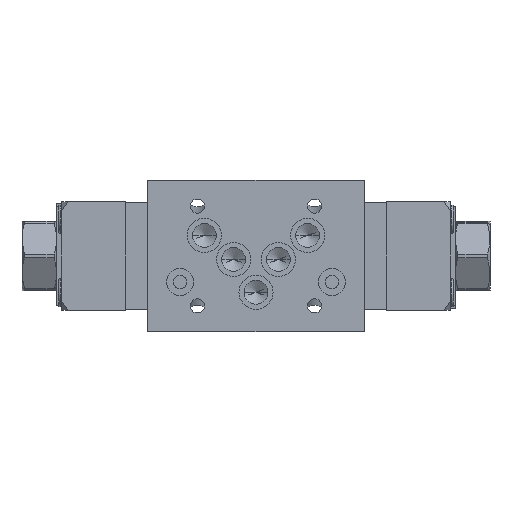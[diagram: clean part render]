
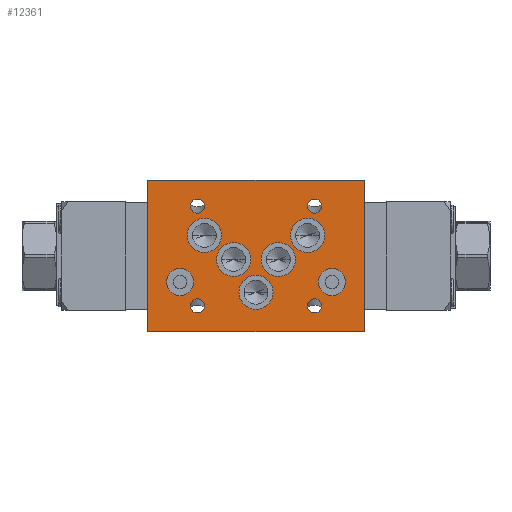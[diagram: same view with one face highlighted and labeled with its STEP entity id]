
A CAD part, front view. The second image highlights one B-rep face of the part: STEP entity #12361.
In plain terms, the highlighted planar face has unit normal (0, -1, 0).
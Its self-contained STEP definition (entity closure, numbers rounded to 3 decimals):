
#678=DIRECTION('',(-1.,0.,0.));
#679=VECTOR('',#678,100.);
#680=CARTESIAN_POINT('',(50.,0.,-35.));
#681=LINE('',#680,#679);
#685=DIRECTION('',(0.,0.,1.));
#686=VECTOR('',#685,70.);
#687=CARTESIAN_POINT('',(-50.,0.,-35.));
#688=LINE('',#687,#686);
#692=CARTESIAN_POINT('',(0.,0.,-16.7));
#693=DIRECTION('',(0.,-1.,0.));
#694=DIRECTION('',(-1.,0.,0.));
#695=AXIS2_PLACEMENT_3D('',#692,#693,#694);
#700=CARTESIAN_POINT('',(0.,0.,-16.7));
#701=DIRECTION('',(0.,-1.,0.));
#702=DIRECTION('',(1.,0.,0.));
#703=AXIS2_PLACEMENT_3D('',#700,#701,#702);
#708=CARTESIAN_POINT('',(10.3,0.,-1.6));
#709=DIRECTION('',(0.,-1.,0.));
#710=DIRECTION('',(-1.,0.,0.));
#711=AXIS2_PLACEMENT_3D('',#708,#709,#710);
#716=CARTESIAN_POINT('',(10.3,0.,-1.6));
#717=DIRECTION('',(0.,-1.,0.));
#718=DIRECTION('',(1.,0.,0.));
#719=AXIS2_PLACEMENT_3D('',#716,#717,#718);
#724=CARTESIAN_POINT('',(-10.3,0.,-1.6));
#725=DIRECTION('',(0.,-1.,0.));
#726=DIRECTION('',(-1.,0.,0.));
#727=AXIS2_PLACEMENT_3D('',#724,#725,#726);
#732=CARTESIAN_POINT('',(-10.3,0.,-1.6));
#733=DIRECTION('',(0.,-1.,0.));
#734=DIRECTION('',(1.,0.,0.));
#735=AXIS2_PLACEMENT_3D('',#732,#733,#734);
#740=CARTESIAN_POINT('',(23.8,0.,9.5));
#741=DIRECTION('',(0.,-1.,0.));
#742=DIRECTION('',(-1.,0.,0.));
#743=AXIS2_PLACEMENT_3D('',#740,#741,#742);
#748=CARTESIAN_POINT('',(23.8,0.,9.5));
#749=DIRECTION('',(0.,-1.,0.));
#750=DIRECTION('',(1.,0.,0.));
#751=AXIS2_PLACEMENT_3D('',#748,#749,#750);
#756=CARTESIAN_POINT('',(-23.8,0.,9.5));
#757=DIRECTION('',(0.,-1.,0.));
#758=DIRECTION('',(-1.,0.,0.));
#759=AXIS2_PLACEMENT_3D('',#756,#757,#758);
#764=CARTESIAN_POINT('',(-23.8,0.,9.5));
#765=DIRECTION('',(0.,-1.,0.));
#766=DIRECTION('',(1.,0.,0.));
#767=AXIS2_PLACEMENT_3D('',#764,#765,#766);
#772=CARTESIAN_POINT('',(35.,0.,-12.));
#773=DIRECTION('',(0.,-1.,0.));
#774=DIRECTION('',(1.,0.,0.));
#775=AXIS2_PLACEMENT_3D('',#772,#773,#774);
#780=CARTESIAN_POINT('',(35.,0.,-12.));
#781=DIRECTION('',(0.,-1.,0.));
#782=DIRECTION('',(-1.,0.,0.));
#783=AXIS2_PLACEMENT_3D('',#780,#781,#782);
#788=CARTESIAN_POINT('',(-35.,0.,-12.));
#789=DIRECTION('',(0.,-1.,0.));
#790=DIRECTION('',(1.,0.,0.));
#791=AXIS2_PLACEMENT_3D('',#788,#789,#790);
#796=CARTESIAN_POINT('',(-35.,0.,-12.));
#797=DIRECTION('',(0.,-1.,0.));
#798=DIRECTION('',(-1.,0.,0.));
#799=AXIS2_PLACEMENT_3D('',#796,#797,#798);
#804=CARTESIAN_POINT('',(-27.,0.,-23.));
#805=DIRECTION('',(0.,-1.,0.));
#806=DIRECTION('',(1.,0.,0.));
#807=AXIS2_PLACEMENT_3D('',#804,#805,#806);
#812=CARTESIAN_POINT('',(-27.,0.,-23.));
#813=DIRECTION('',(0.,-1.,0.));
#814=DIRECTION('',(-1.,0.,0.));
#815=AXIS2_PLACEMENT_3D('',#812,#813,#814);
#820=CARTESIAN_POINT('',(27.,0.,-23.));
#821=DIRECTION('',(0.,-1.,0.));
#822=DIRECTION('',(1.,0.,0.));
#823=AXIS2_PLACEMENT_3D('',#820,#821,#822);
#828=CARTESIAN_POINT('',(27.,0.,-23.));
#829=DIRECTION('',(0.,-1.,0.));
#830=DIRECTION('',(-1.,0.,0.));
#831=AXIS2_PLACEMENT_3D('',#828,#829,#830);
#836=CARTESIAN_POINT('',(27.,0.,23.));
#837=DIRECTION('',(0.,-1.,0.));
#838=DIRECTION('',(1.,0.,0.));
#839=AXIS2_PLACEMENT_3D('',#836,#837,#838);
#844=CARTESIAN_POINT('',(27.,0.,23.));
#845=DIRECTION('',(0.,-1.,0.));
#846=DIRECTION('',(-1.,0.,0.));
#847=AXIS2_PLACEMENT_3D('',#844,#845,#846);
#852=CARTESIAN_POINT('',(-27.,0.,23.));
#853=DIRECTION('',(0.,-1.,0.));
#854=DIRECTION('',(1.,0.,0.));
#855=AXIS2_PLACEMENT_3D('',#852,#853,#854);
#860=CARTESIAN_POINT('',(-27.,0.,23.));
#861=DIRECTION('',(0.,-1.,0.));
#862=DIRECTION('',(-1.,0.,0.));
#863=AXIS2_PLACEMENT_3D('',#860,#861,#862);
#896=DIRECTION('',(0.,0.,1.));
#897=VECTOR('',#896,70.);
#898=CARTESIAN_POINT('',(50.,0.,-35.));
#899=LINE('',#898,#897);
#1169=DIRECTION('',(-1.,0.,0.));
#1170=VECTOR('',#1169,100.);
#1171=CARTESIAN_POINT('',(50.,0.,35.));
#1172=LINE('',#1171,#1170);
#10425=CARTESIAN_POINT('',(-50.,0.,-35.));
#10426=VERTEX_POINT('',#10425);
#10431=CARTESIAN_POINT('',(-50.,0.,35.));
#10432=VERTEX_POINT('',#10431);
#10433=CARTESIAN_POINT('',(50.,0.,-35.));
#10434=VERTEX_POINT('',#10433);
#10459=CARTESIAN_POINT('',(50.,0.,35.));
#10460=VERTEX_POINT('',#10459);
#10461=CARTESIAN_POINT('',(-7.85,0.,-16.7));
#10462=CARTESIAN_POINT('',(7.85,0.,-16.7));
#10463=VERTEX_POINT('',#10461);
#10464=VERTEX_POINT('',#10462);
#10465=CARTESIAN_POINT('',(2.45,0.,-1.6));
#10466=CARTESIAN_POINT('',(18.15,0.,-1.6));
#10467=VERTEX_POINT('',#10465);
#10468=VERTEX_POINT('',#10466);
#10469=CARTESIAN_POINT('',(-18.15,0.,-1.6));
#10470=CARTESIAN_POINT('',(-2.45,0.,-1.6));
#10471=VERTEX_POINT('',#10469);
#10472=VERTEX_POINT('',#10470);
#10473=CARTESIAN_POINT('',(15.95,0.,9.5));
#10474=CARTESIAN_POINT('',(31.65,0.,9.5));
#10475=VERTEX_POINT('',#10473);
#10476=VERTEX_POINT('',#10474);
#10477=CARTESIAN_POINT('',(-31.65,0.,9.5));
#10478=CARTESIAN_POINT('',(-15.95,0.,9.5));
#10479=VERTEX_POINT('',#10477);
#10480=VERTEX_POINT('',#10478);
#10481=CARTESIAN_POINT('',(41.25,0.,-12.));
#10482=CARTESIAN_POINT('',(28.75,0.,-12.));
#10483=VERTEX_POINT('',#10481);
#10484=VERTEX_POINT('',#10482);
#10485=CARTESIAN_POINT('',(-28.75,0.,-12.));
#10486=CARTESIAN_POINT('',(-41.25,0.,-12.));
#10487=VERTEX_POINT('',#10485);
#10488=VERTEX_POINT('',#10486);
#10489=CARTESIAN_POINT('',(-23.75,0.,-23.));
#10490=CARTESIAN_POINT('',(-30.25,0.,-23.));
#10491=VERTEX_POINT('',#10489);
#10492=VERTEX_POINT('',#10490);
#10493=CARTESIAN_POINT('',(30.25,0.,-23.));
#10494=CARTESIAN_POINT('',(23.75,0.,-23.));
#10495=VERTEX_POINT('',#10493);
#10496=VERTEX_POINT('',#10494);
#10497=CARTESIAN_POINT('',(30.25,0.,23.));
#10498=CARTESIAN_POINT('',(23.75,0.,23.));
#10499=VERTEX_POINT('',#10497);
#10500=VERTEX_POINT('',#10498);
#10501=CARTESIAN_POINT('',(-23.75,0.,23.));
#10502=CARTESIAN_POINT('',(-30.25,0.,23.));
#10503=VERTEX_POINT('',#10501);
#10504=VERTEX_POINT('',#10502);
#12282=CARTESIAN_POINT('',(-60.,0.,35.));
#12283=DIRECTION('',(0.,-1.,0.));
#12284=DIRECTION('',(0.,0.,-1.));
#12285=AXIS2_PLACEMENT_3D('',#12282,#12283,#12284);
#12286=PLANE('',#12285);
#12288=ORIENTED_EDGE('',*,*,#12287,.F.);
#12289=ORIENTED_EDGE('',*,*,#12242,.T.);
#12290=ORIENTED_EDGE('',*,*,#12231,.T.);
#12292=ORIENTED_EDGE('',*,*,#12291,.F.);
#12293=EDGE_LOOP('',(#12288,#12289,#12290,#12292));
#12294=FACE_OUTER_BOUND('',#12293,.F.);
#12296=ORIENTED_EDGE('',*,*,#12295,.T.);
#12298=ORIENTED_EDGE('',*,*,#12297,.T.);
#12299=EDGE_LOOP('',(#12296,#12298));
#12300=FACE_BOUND('',#12299,.F.);
#12302=ORIENTED_EDGE('',*,*,#12301,.T.);
#12304=ORIENTED_EDGE('',*,*,#12303,.T.);
#12305=EDGE_LOOP('',(#12302,#12304));
#12306=FACE_BOUND('',#12305,.F.);
#12308=ORIENTED_EDGE('',*,*,#12307,.T.);
#12310=ORIENTED_EDGE('',*,*,#12309,.T.);
#12311=EDGE_LOOP('',(#12308,#12310));
#12312=FACE_BOUND('',#12311,.F.);
#12314=ORIENTED_EDGE('',*,*,#12313,.T.);
#12316=ORIENTED_EDGE('',*,*,#12315,.T.);
#12317=EDGE_LOOP('',(#12314,#12316));
#12318=FACE_BOUND('',#12317,.F.);
#12320=ORIENTED_EDGE('',*,*,#12319,.T.);
#12322=ORIENTED_EDGE('',*,*,#12321,.T.);
#12323=EDGE_LOOP('',(#12320,#12322));
#12324=FACE_BOUND('',#12323,.F.);
#12326=ORIENTED_EDGE('',*,*,#12325,.T.);
#12328=ORIENTED_EDGE('',*,*,#12327,.T.);
#12329=EDGE_LOOP('',(#12326,#12328));
#12330=FACE_BOUND('',#12329,.F.);
#12332=ORIENTED_EDGE('',*,*,#12331,.T.);
#12334=ORIENTED_EDGE('',*,*,#12333,.T.);
#12335=EDGE_LOOP('',(#12332,#12334));
#12336=FACE_BOUND('',#12335,.F.);
#12338=ORIENTED_EDGE('',*,*,#12337,.T.);
#12340=ORIENTED_EDGE('',*,*,#12339,.T.);
#12341=EDGE_LOOP('',(#12338,#12340));
#12342=FACE_BOUND('',#12341,.F.);
#12344=ORIENTED_EDGE('',*,*,#12343,.T.);
#12346=ORIENTED_EDGE('',*,*,#12345,.T.);
#12347=EDGE_LOOP('',(#12344,#12346));
#12348=FACE_BOUND('',#12347,.F.);
#12350=ORIENTED_EDGE('',*,*,#12349,.T.);
#12352=ORIENTED_EDGE('',*,*,#12351,.T.);
#12353=EDGE_LOOP('',(#12350,#12352));
#12354=FACE_BOUND('',#12353,.F.);
#12356=ORIENTED_EDGE('',*,*,#12355,.T.);
#12358=ORIENTED_EDGE('',*,*,#12357,.T.);
#12359=EDGE_LOOP('',(#12356,#12358));
#12360=FACE_BOUND('',#12359,.F.);
#696=CIRCLE('',#695,7.85);
#704=CIRCLE('',#703,7.85);
#712=CIRCLE('',#711,7.85);
#720=CIRCLE('',#719,7.85);
#728=CIRCLE('',#727,7.85);
#736=CIRCLE('',#735,7.85);
#744=CIRCLE('',#743,7.85);
#752=CIRCLE('',#751,7.85);
#760=CIRCLE('',#759,7.85);
#768=CIRCLE('',#767,7.85);
#776=CIRCLE('',#775,6.25);
#784=CIRCLE('',#783,6.25);
#792=CIRCLE('',#791,6.25);
#800=CIRCLE('',#799,6.25);
#808=CIRCLE('',#807,3.25);
#816=CIRCLE('',#815,3.25);
#824=CIRCLE('',#823,3.25);
#832=CIRCLE('',#831,3.25);
#840=CIRCLE('',#839,3.25);
#848=CIRCLE('',#847,3.25);
#856=CIRCLE('',#855,3.25);
#864=CIRCLE('',#863,3.25);
#12231=EDGE_CURVE('',#10426,#10432,#688,.T.);
#12242=EDGE_CURVE('',#10434,#10426,#681,.T.);
#12287=EDGE_CURVE('',#10434,#10460,#899,.T.);
#12291=EDGE_CURVE('',#10460,#10432,#1172,.T.);
#12295=EDGE_CURVE('',#10463,#10464,#696,.T.);
#12297=EDGE_CURVE('',#10464,#10463,#704,.T.);
#12301=EDGE_CURVE('',#10467,#10468,#712,.T.);
#12303=EDGE_CURVE('',#10468,#10467,#720,.T.);
#12307=EDGE_CURVE('',#10471,#10472,#728,.T.);
#12309=EDGE_CURVE('',#10472,#10471,#736,.T.);
#12313=EDGE_CURVE('',#10475,#10476,#744,.T.);
#12315=EDGE_CURVE('',#10476,#10475,#752,.T.);
#12319=EDGE_CURVE('',#10479,#10480,#760,.T.);
#12321=EDGE_CURVE('',#10480,#10479,#768,.T.);
#12325=EDGE_CURVE('',#10483,#10484,#776,.T.);
#12327=EDGE_CURVE('',#10484,#10483,#784,.T.);
#12331=EDGE_CURVE('',#10487,#10488,#792,.T.);
#12333=EDGE_CURVE('',#10488,#10487,#800,.T.);
#12337=EDGE_CURVE('',#10491,#10492,#808,.T.);
#12339=EDGE_CURVE('',#10492,#10491,#816,.T.);
#12343=EDGE_CURVE('',#10495,#10496,#824,.T.);
#12345=EDGE_CURVE('',#10496,#10495,#832,.T.);
#12349=EDGE_CURVE('',#10499,#10500,#840,.T.);
#12351=EDGE_CURVE('',#10500,#10499,#848,.T.);
#12355=EDGE_CURVE('',#10503,#10504,#856,.T.);
#12357=EDGE_CURVE('',#10504,#10503,#864,.T.);
#12361=ADVANCED_FACE('',(#12294,#12300,#12306,#12312,#12318,#12324,#12330,
#12336,#12342,#12348,#12354,#12360),#12286,.T.);
